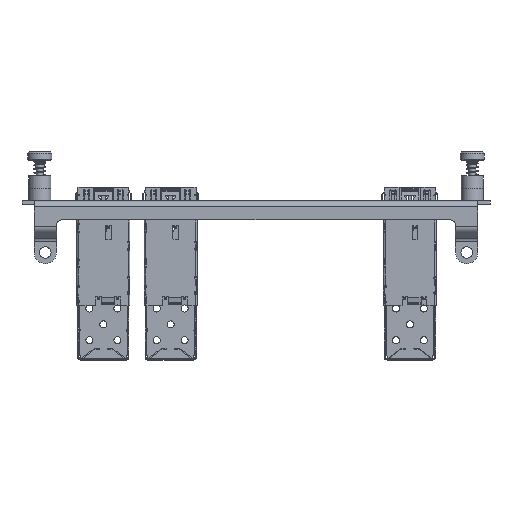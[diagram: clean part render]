
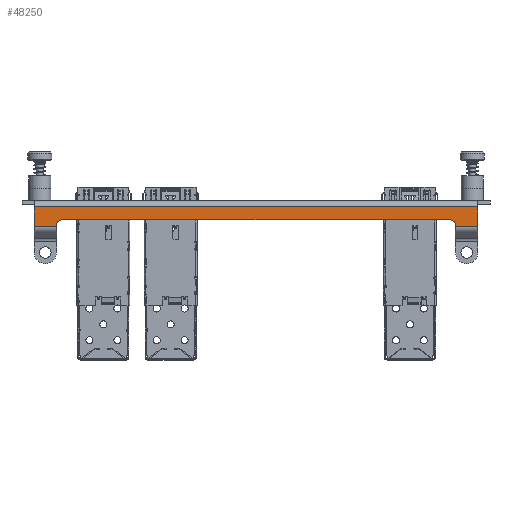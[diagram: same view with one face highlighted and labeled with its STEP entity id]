
A CAD part, front view. The second image highlights one B-rep face of the part: STEP entity #48250.
In plain terms, the highlighted planar face has unit normal (0, -1, 0) as drawn and (0, 0, 1) by its records, which use the part's own axes.
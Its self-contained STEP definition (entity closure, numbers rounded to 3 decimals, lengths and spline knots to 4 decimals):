
#4775=PLANE('',#50356);
#5945=FACE_OUTER_BOUND('',#7821,.T.);
#7821=EDGE_LOOP('',(#38326,#38327,#38328,#38329,#38330,#38331,#38332,#38333,
#38334,#38335));
#9733=LINE('',#66815,#15189);
#9737=LINE('',#66827,#15193);
#9755=LINE('',#66874,#15211);
#9797=LINE('',#66986,#15253);
#9825=LINE('',#67060,#15281);
#9874=LINE('',#67188,#15330);
#9875=LINE('',#67189,#15331);
#9876=LINE('',#67190,#15332);
#15189=VECTOR('',#53962,0.3937);
#15193=VECTOR('',#53974,0.3937);
#15211=VECTOR('',#54008,0.3937);
#15253=VECTOR('',#54088,0.3937);
#15281=VECTOR('',#54166,0.3937);
#15330=VECTOR('',#54313,0.3937);
#15331=VECTOR('',#54314,0.3937);
#15332=VECTOR('',#54315,0.3937);
#20643=CIRCLE('',#50249,0.06);
#20645=CIRCLE('',#50253,0.06);
#22531=VERTEX_POINT('',#66805);
#22532=VERTEX_POINT('',#66806);
#22535=VERTEX_POINT('',#66814);
#22537=VERTEX_POINT('',#66820);
#22539=VERTEX_POINT('',#66826);
#22559=VERTEX_POINT('',#66872);
#22560=VERTEX_POINT('',#66873);
#22610=VERTEX_POINT('',#66983);
#22611=VERTEX_POINT('',#66985);
#22632=VERTEX_POINT('',#67058);
#29966=EDGE_CURVE('',#22531,#22532,#20643,.T.);
#29970=EDGE_CURVE('',#22535,#22532,#9733,.T.);
#29973=EDGE_CURVE('',#22535,#22537,#20645,.T.);
#29976=EDGE_CURVE('',#22539,#22537,#9737,.T.);
#29998=EDGE_CURVE('',#22559,#22560,#9755,.T.);
#30055=EDGE_CURVE('',#22611,#22610,#9797,.T.);
#30094=EDGE_CURVE('',#22531,#22632,#9825,.T.);
#30157=EDGE_CURVE('',#22560,#22611,#9874,.T.);
#30158=EDGE_CURVE('',#22539,#22610,#9875,.T.);
#30159=EDGE_CURVE('',#22559,#22632,#9876,.T.);
#38326=ORIENTED_EDGE('',*,*,#29998,.T.);
#38327=ORIENTED_EDGE('',*,*,#30157,.T.);
#38328=ORIENTED_EDGE('',*,*,#30055,.T.);
#38329=ORIENTED_EDGE('',*,*,#30158,.F.);
#38330=ORIENTED_EDGE('',*,*,#29976,.T.);
#38331=ORIENTED_EDGE('',*,*,#29973,.F.);
#38332=ORIENTED_EDGE('',*,*,#29970,.T.);
#38333=ORIENTED_EDGE('',*,*,#29966,.F.);
#38334=ORIENTED_EDGE('',*,*,#30094,.T.);
#38335=ORIENTED_EDGE('',*,*,#30159,.F.);
#48250=ADVANCED_FACE('',(#5945),#4775,.T.);
#50249=AXIS2_PLACEMENT_3D('',#66807,#53954,#53955);
#50253=AXIS2_PLACEMENT_3D('',#66821,#53967,#53968);
#50356=AXIS2_PLACEMENT_3D('',#67187,#54311,#54312);
#53954=DIRECTION('center_axis',(0.,0.,
1.));
#53955=DIRECTION('ref_axis',(0.707,0.707,0.));
#53962=DIRECTION('',(1.,0.,0.));
#53967=DIRECTION('center_axis',(0.,0.,
1.));
#53968=DIRECTION('ref_axis',(-0.707,0.707,0.));
#53974=DIRECTION('',(0.,1.,0.));
#54008=DIRECTION('',(0.,1.,0.));
#54088=DIRECTION('',(0.,-1.,0.));
#54166=DIRECTION('',(0.,-1.,0.));
#54311=DIRECTION('center_axis',(0.,0.,
1.));
#54312=DIRECTION('ref_axis',(0.,-1.,0.));
#54313=DIRECTION('',(-1.,0.,0.));
#54314=DIRECTION('',(-1.,0.,0.));
#54315=DIRECTION('',(-1.,0.,0.));
#66805=CARTESIAN_POINT('',(2.225,-0.2371,0.4925));
#66806=CARTESIAN_POINT('',(2.165,-0.1771,0.4925));
#66807=CARTESIAN_POINT('Origin',(2.165,-0.2371,0.4925));
#66814=CARTESIAN_POINT('',(-2.165,-0.1771,0.4925));
#66815=CARTESIAN_POINT('',(-1.1125,-0.1771,0.4925));
#66820=CARTESIAN_POINT('',(-2.225,-0.2371,0.4925));
#66821=CARTESIAN_POINT('Origin',(-2.165,-0.2371,0.4925));
#66826=CARTESIAN_POINT('',(-2.225,-0.2468,0.4925));
#66827=CARTESIAN_POINT('',(-2.225,-0.3941,0.4925));
#66872=CARTESIAN_POINT('',(2.475,-0.2468,0.4925));
#66873=CARTESIAN_POINT('',(2.475,-0.0313,0.4925));
#66874=CARTESIAN_POINT('',(2.475,-0.3941,0.4925));
#66983=CARTESIAN_POINT('',(-2.475,-0.2468,0.4925));
#66985=CARTESIAN_POINT('',(-2.475,-0.0313,0.4925));
#66986=CARTESIAN_POINT('',(-2.475,-0.1506,0.4925));
#67058=CARTESIAN_POINT('',(2.225,-0.2468,0.4925));
#67060=CARTESIAN_POINT('',(2.225,-0.1506,0.4925));
#67187=CARTESIAN_POINT('Origin',(0.,-0.124,0.4925));
#67188=CARTESIAN_POINT('',(0.,-0.0313,0.4925));
#67189=CARTESIAN_POINT('',(1.305,-0.2468,0.4925));
#67190=CARTESIAN_POINT('',(1.305,-0.2468,0.4925));
